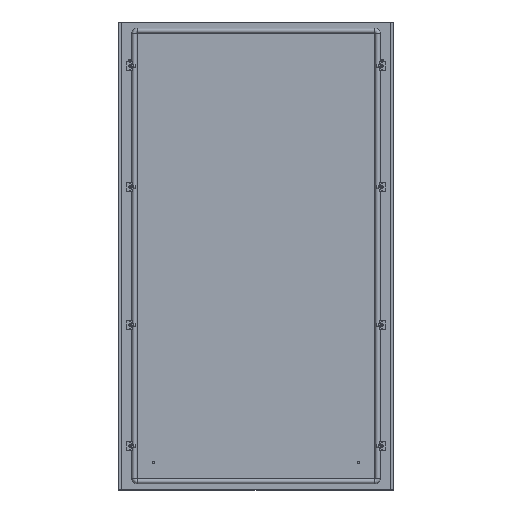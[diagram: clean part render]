
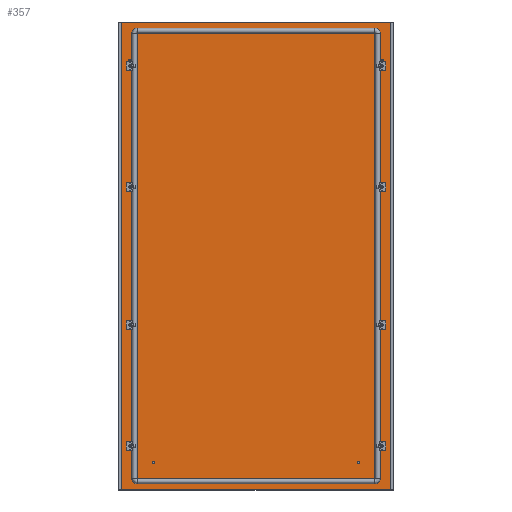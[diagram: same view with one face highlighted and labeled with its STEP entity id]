
A CAD part, top view. The second image highlights one B-rep face of the part: STEP entity #357.
In plain terms, the highlighted planar face has unit normal (0, 0, 1).
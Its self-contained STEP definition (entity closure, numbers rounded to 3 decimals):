
#357 = ADVANCED_FACE('',(#358,#456,#467,#478,#498,#518,#529,#540,#560),
  #580,.F.);
#358 = FACE_BOUND('',#359,.T.);
#359 = EDGE_LOOP('',(#360,#370,#378,#386,#394,#402,#410,#418,#426,#434,
    #442,#450));
#360 = ORIENTED_EDGE('',*,*,#361,.F.);
#361 = EDGE_CURVE('',#362,#364,#366,.T.);
#362 = VERTEX_POINT('',#363);
#363 = CARTESIAN_POINT('',(-395.5,677.5,0.));
#364 = VERTEX_POINT('',#365);
#365 = CARTESIAN_POINT('',(-395.3,677.5,0.));
#366 = LINE('',#367,#368);
#367 = CARTESIAN_POINT('',(0.,677.5,0.)
  );
#368 = VECTOR('',#369,1.);
#369 = DIRECTION('',(1.,0.,0.));
#370 = ORIENTED_EDGE('',*,*,#371,.T.);
#371 = EDGE_CURVE('',#362,#372,#374,.T.);
#372 = VERTEX_POINT('',#373);
#373 = CARTESIAN_POINT('',(-395.5,-677.5,0.));
#374 = LINE('',#375,#376);
#375 = CARTESIAN_POINT('',(-395.5,0.,0.));
#376 = VECTOR('',#377,1.);
#377 = DIRECTION('',(0.,-1.,-0.));
#378 = ORIENTED_EDGE('',*,*,#379,.T.);
#379 = EDGE_CURVE('',#372,#380,#382,.T.);
#380 = VERTEX_POINT('',#381);
#381 = CARTESIAN_POINT('',(-395.3,-677.5,0.));
#382 = LINE('',#383,#384);
#383 = CARTESIAN_POINT('',(0.,-677.5,
    0.));
#384 = VECTOR('',#385,1.);
#385 = DIRECTION('',(1.,-0.,-0.));
#386 = ORIENTED_EDGE('',*,*,#387,.F.);
#387 = EDGE_CURVE('',#388,#380,#390,.T.);
#388 = VERTEX_POINT('',#389);
#389 = CARTESIAN_POINT('',(-395.3,-676.,0.));
#390 = LINE('',#391,#392);
#391 = CARTESIAN_POINT('',(-395.3,0.,0.));
#392 = VECTOR('',#393,1.);
#393 = DIRECTION('',(0.,-1.,0.));
#394 = ORIENTED_EDGE('',*,*,#395,.T.);
#395 = EDGE_CURVE('',#388,#396,#398,.T.);
#396 = VERTEX_POINT('',#397);
#397 = CARTESIAN_POINT('',(395.3,-676.,0.));
#398 = LINE('',#399,#400);
#399 = CARTESIAN_POINT('',(0.,-676.,0.
    ));
#400 = VECTOR('',#401,1.);
#401 = DIRECTION('',(1.,-0.,-0.));
#402 = ORIENTED_EDGE('',*,*,#403,.T.);
#403 = EDGE_CURVE('',#396,#404,#406,.T.);
#404 = VERTEX_POINT('',#405);
#405 = CARTESIAN_POINT('',(395.3,-677.5,0.));
#406 = LINE('',#407,#408);
#407 = CARTESIAN_POINT('',(395.3,-676.,0.));
#408 = VECTOR('',#409,1.);
#409 = DIRECTION('',(0.,-1.,-0.));
#410 = ORIENTED_EDGE('',*,*,#411,.F.);
#411 = EDGE_CURVE('',#412,#404,#414,.T.);
#412 = VERTEX_POINT('',#413);
#413 = CARTESIAN_POINT('',(395.5,-677.5,0.));
#414 = LINE('',#415,#416);
#415 = CARTESIAN_POINT('',(0.,-677.5,0.)
  );
#416 = VECTOR('',#417,1.);
#417 = DIRECTION('',(-1.,0.,0.));
#418 = ORIENTED_EDGE('',*,*,#419,.T.);
#419 = EDGE_CURVE('',#412,#420,#422,.T.);
#420 = VERTEX_POINT('',#421);
#421 = CARTESIAN_POINT('',(395.5,677.5,0.));
#422 = LINE('',#423,#424);
#423 = CARTESIAN_POINT('',(395.5,0.,0.));
#424 = VECTOR('',#425,1.);
#425 = DIRECTION('',(-0.,1.,-0.));
#426 = ORIENTED_EDGE('',*,*,#427,.T.);
#427 = EDGE_CURVE('',#420,#428,#430,.T.);
#428 = VERTEX_POINT('',#429);
#429 = CARTESIAN_POINT('',(395.3,677.5,0.));
#430 = LINE('',#431,#432);
#431 = CARTESIAN_POINT('',(0.,677.5,0.
    ));
#432 = VECTOR('',#433,1.);
#433 = DIRECTION('',(-1.,-0.,-0.));
#434 = ORIENTED_EDGE('',*,*,#435,.F.);
#435 = EDGE_CURVE('',#436,#428,#438,.T.);
#436 = VERTEX_POINT('',#437);
#437 = CARTESIAN_POINT('',(395.3,676.,0.));
#438 = LINE('',#439,#440);
#439 = CARTESIAN_POINT('',(395.3,0.,
    0.));
#440 = VECTOR('',#441,1.);
#441 = DIRECTION('',(0.,1.,0.));
#442 = ORIENTED_EDGE('',*,*,#443,.T.);
#443 = EDGE_CURVE('',#436,#444,#446,.T.);
#444 = VERTEX_POINT('',#445);
#445 = CARTESIAN_POINT('',(-395.3,676.,0.));
#446 = LINE('',#447,#448);
#447 = CARTESIAN_POINT('',(0.,676.,0.)
  );
#448 = VECTOR('',#449,1.);
#449 = DIRECTION('',(-1.,-0.,-0.));
#450 = ORIENTED_EDGE('',*,*,#451,.T.);
#451 = EDGE_CURVE('',#444,#364,#452,.T.);
#452 = LINE('',#453,#454);
#453 = CARTESIAN_POINT('',(-395.3,676.,0.));
#454 = VECTOR('',#455,1.);
#455 = DIRECTION('',(0.,1.,-0.));
#456 = FACE_BOUND('',#457,.T.);
#457 = EDGE_LOOP('',(#458));
#458 = ORIENTED_EDGE('',*,*,#459,.T.);
#459 = EDGE_CURVE('',#460,#460,#462,.T.);
#460 = VERTEX_POINT('',#461);
#461 = CARTESIAN_POINT('',(-364.5,-195.25,0.));
#462 = CIRCLE('',#463,4.75);
#463 = AXIS2_PLACEMENT_3D('',#464,#465,#466);
#464 = CARTESIAN_POINT('',(-364.5,-200.,0.));
#465 = DIRECTION('',(0.,0.,-1.));
#466 = DIRECTION('',(0.,1.,0.));
#467 = FACE_BOUND('',#468,.T.);
#468 = EDGE_LOOP('',(#469));
#469 = ORIENTED_EDGE('',*,*,#470,.T.);
#470 = EDGE_CURVE('',#471,#471,#473,.T.);
#471 = VERTEX_POINT('',#472);
#472 = CARTESIAN_POINT('',(364.5,-204.75,0.));
#473 = CIRCLE('',#474,4.75);
#474 = AXIS2_PLACEMENT_3D('',#475,#476,#477);
#475 = CARTESIAN_POINT('',(364.5,-200.,0.));
#476 = DIRECTION('',(-0.,0.,-1.));
#477 = DIRECTION('',(0.,-1.,0.));
#478 = FACE_BOUND('',#479,.T.);
#479 = EDGE_LOOP('',(#480,#491));
#480 = ORIENTED_EDGE('',*,*,#481,.F.);
#481 = EDGE_CURVE('',#482,#484,#486,.T.);
#482 = VERTEX_POINT('',#483);
#483 = CARTESIAN_POINT('',(-364.5,554.75,0.));
#484 = VERTEX_POINT('',#485);
#485 = CARTESIAN_POINT('',(-364.5,545.25,0.));
#486 = CIRCLE('',#487,4.75);
#487 = AXIS2_PLACEMENT_3D('',#488,#489,#490);
#488 = CARTESIAN_POINT('',(-364.5,550.,0.));
#489 = DIRECTION('',(0.,0.,1.));
#490 = DIRECTION('',(0.,1.,0.));
#491 = ORIENTED_EDGE('',*,*,#492,.F.);
#492 = EDGE_CURVE('',#484,#482,#493,.T.);
#493 = CIRCLE('',#494,4.75);
#494 = AXIS2_PLACEMENT_3D('',#495,#496,#497);
#495 = CARTESIAN_POINT('',(-364.5,550.,0.));
#496 = DIRECTION('',(0.,0.,1.));
#497 = DIRECTION('',(0.,1.,0.));
#498 = FACE_BOUND('',#499,.T.);
#499 = EDGE_LOOP('',(#500,#511));
#500 = ORIENTED_EDGE('',*,*,#501,.F.);
#501 = EDGE_CURVE('',#502,#504,#506,.T.);
#502 = VERTEX_POINT('',#503);
#503 = CARTESIAN_POINT('',(364.5,545.25,0.));
#504 = VERTEX_POINT('',#505);
#505 = CARTESIAN_POINT('',(364.5,554.75,0.));
#506 = CIRCLE('',#507,4.75);
#507 = AXIS2_PLACEMENT_3D('',#508,#509,#510);
#508 = CARTESIAN_POINT('',(364.5,550.,0.));
#509 = DIRECTION('',(0.,0.,1.));
#510 = DIRECTION('',(0.,-1.,0.));
#511 = ORIENTED_EDGE('',*,*,#512,.F.);
#512 = EDGE_CURVE('',#504,#502,#513,.T.);
#513 = CIRCLE('',#514,4.75);
#514 = AXIS2_PLACEMENT_3D('',#515,#516,#517);
#515 = CARTESIAN_POINT('',(364.5,550.,0.));
#516 = DIRECTION('',(0.,0.,1.));
#517 = DIRECTION('',(0.,-1.,0.));
#518 = FACE_BOUND('',#519,.T.);
#519 = EDGE_LOOP('',(#520));
#520 = ORIENTED_EDGE('',*,*,#521,.T.);
#521 = EDGE_CURVE('',#522,#522,#524,.T.);
#522 = VERTEX_POINT('',#523);
#523 = CARTESIAN_POINT('',(-364.5,-545.25,0.));
#524 = CIRCLE('',#525,4.75);
#525 = AXIS2_PLACEMENT_3D('',#526,#527,#528);
#526 = CARTESIAN_POINT('',(-364.5,-550.,0.));
#527 = DIRECTION('',(0.,0.,-1.));
#528 = DIRECTION('',(0.,1.,0.));
#529 = FACE_BOUND('',#530,.T.);
#530 = EDGE_LOOP('',(#531));
#531 = ORIENTED_EDGE('',*,*,#532,.T.);
#532 = EDGE_CURVE('',#533,#533,#535,.T.);
#533 = VERTEX_POINT('',#534);
#534 = CARTESIAN_POINT('',(364.5,-554.75,0.));
#535 = CIRCLE('',#536,4.75);
#536 = AXIS2_PLACEMENT_3D('',#537,#538,#539);
#537 = CARTESIAN_POINT('',(364.5,-550.,0.));
#538 = DIRECTION('',(-0.,0.,-1.));
#539 = DIRECTION('',(0.,-1.,0.));
#540 = FACE_BOUND('',#541,.T.);
#541 = EDGE_LOOP('',(#542,#553));
#542 = ORIENTED_EDGE('',*,*,#543,.F.);
#543 = EDGE_CURVE('',#544,#546,#548,.T.);
#544 = VERTEX_POINT('',#545);
#545 = CARTESIAN_POINT('',(364.5,195.25,0.));
#546 = VERTEX_POINT('',#547);
#547 = CARTESIAN_POINT('',(364.5,204.75,0.));
#548 = CIRCLE('',#549,4.75);
#549 = AXIS2_PLACEMENT_3D('',#550,#551,#552);
#550 = CARTESIAN_POINT('',(364.5,200.,0.));
#551 = DIRECTION('',(0.,0.,1.));
#552 = DIRECTION('',(0.,-1.,0.));
#553 = ORIENTED_EDGE('',*,*,#554,.F.);
#554 = EDGE_CURVE('',#546,#544,#555,.T.);
#555 = CIRCLE('',#556,4.75);
#556 = AXIS2_PLACEMENT_3D('',#557,#558,#559);
#557 = CARTESIAN_POINT('',(364.5,200.,0.));
#558 = DIRECTION('',(0.,0.,1.));
#559 = DIRECTION('',(0.,-1.,0.));
#560 = FACE_BOUND('',#561,.T.);
#561 = EDGE_LOOP('',(#562,#573));
#562 = ORIENTED_EDGE('',*,*,#563,.F.);
#563 = EDGE_CURVE('',#564,#566,#568,.T.);
#564 = VERTEX_POINT('',#565);
#565 = CARTESIAN_POINT('',(-364.5,204.75,0.));
#566 = VERTEX_POINT('',#567);
#567 = CARTESIAN_POINT('',(-364.5,195.25,0.));
#568 = CIRCLE('',#569,4.75);
#569 = AXIS2_PLACEMENT_3D('',#570,#571,#572);
#570 = CARTESIAN_POINT('',(-364.5,200.,0.));
#571 = DIRECTION('',(0.,0.,1.));
#572 = DIRECTION('',(0.,1.,0.));
#573 = ORIENTED_EDGE('',*,*,#574,.F.);
#574 = EDGE_CURVE('',#566,#564,#575,.T.);
#575 = CIRCLE('',#576,4.75);
#576 = AXIS2_PLACEMENT_3D('',#577,#578,#579);
#577 = CARTESIAN_POINT('',(-364.5,200.,0.));
#578 = DIRECTION('',(0.,0.,1.));
#579 = DIRECTION('',(0.,1.,0.));
#580 = PLANE('',#581);
#581 = AXIS2_PLACEMENT_3D('',#582,#583,#584);
#582 = CARTESIAN_POINT('',(0.,0.,0.));
#583 = DIRECTION('',(0.,0.,-1.));
#584 = DIRECTION('',(-1.,0.,0.));
